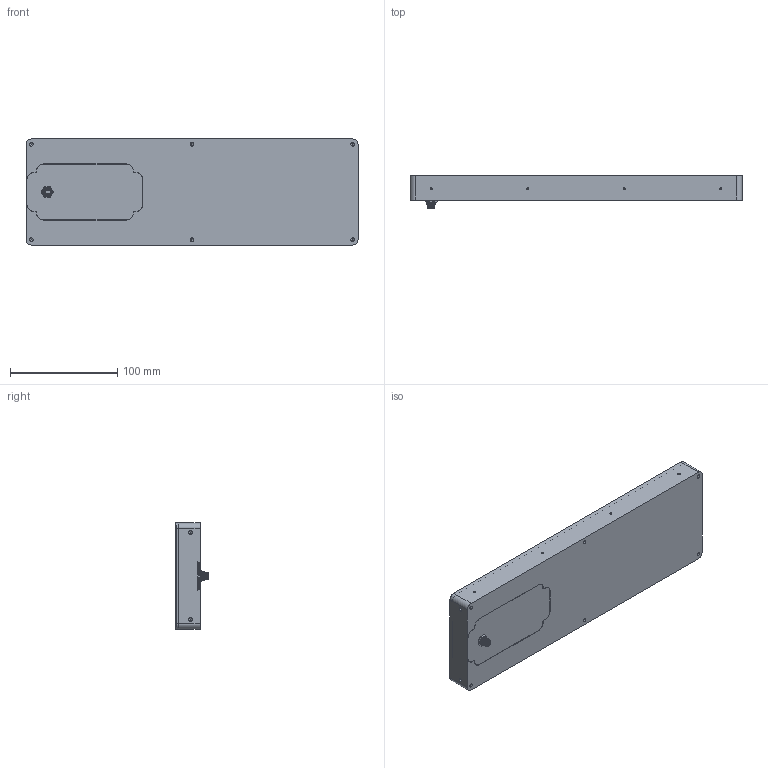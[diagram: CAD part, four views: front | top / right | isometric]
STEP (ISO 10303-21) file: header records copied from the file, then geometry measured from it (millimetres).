
FILE_DESCRIPTION (( 'STEP AP214' ), '1' );
FILE_NAME ('02999.00 Basisbaugruppe SAL-0930.STEP', '2022-03-21T15:00:42', ( '' ), ( '' ), 'SwSTEP 2.0', 'SolidWorks 2013', '' );
FILE_SCHEMA (( 'AUTOMOTIVE_DESIGN' ));
Length unit declared in the file: millimetre
Products named in the file (6): 00699.00 Mutter M8x0,5; 02995.00 Steckerblech SAL-09xx (M8-Stecker); 00222.00 Einbaustecker M8x0,5, 4-pol; 03000.00 Deckscheibe SAL-0930 (klar, mit Blende); 02999.00 Basisbaugruppe SAL-0930; 03001.00 Gehäuse SAL-0930
Assembly tree (5 placements, depth 2):
  02999.00 Basisbaugruppe SAL-0930
    03001.00 Gehäuse SAL-0930
    03000.00 Deckscheibe SAL-0930 (klar, mit Blende)
    00222.00 Einbaustecker M8x0,5, 4-pol
    00699.00 Mutter M8x0,5
    02995.00 Steckerblech SAL-09xx (M8-Stecker)
Bounding box: 310 x 30.8 x 99 mm (x, y, z)
Volume: 428745.2 mm3; surface area: 173882.5 mm2
Topology: 6 solids, 6 shells, 402 faces, 1060 edges, 668 vertices
Faces by surface type: cylinder 180, plane 154, cone 60, bspline 8
Entity records: 14818 total; most frequent: CARTESIAN_POINT 3004, DIRECTION 2160, ORIENTED_EDGE 2048, EDGE_CURVE 1024, AXIS2_PLACEMENT_3D 785, VERTEX_POINT 668, LINE 590, VECTOR 590
